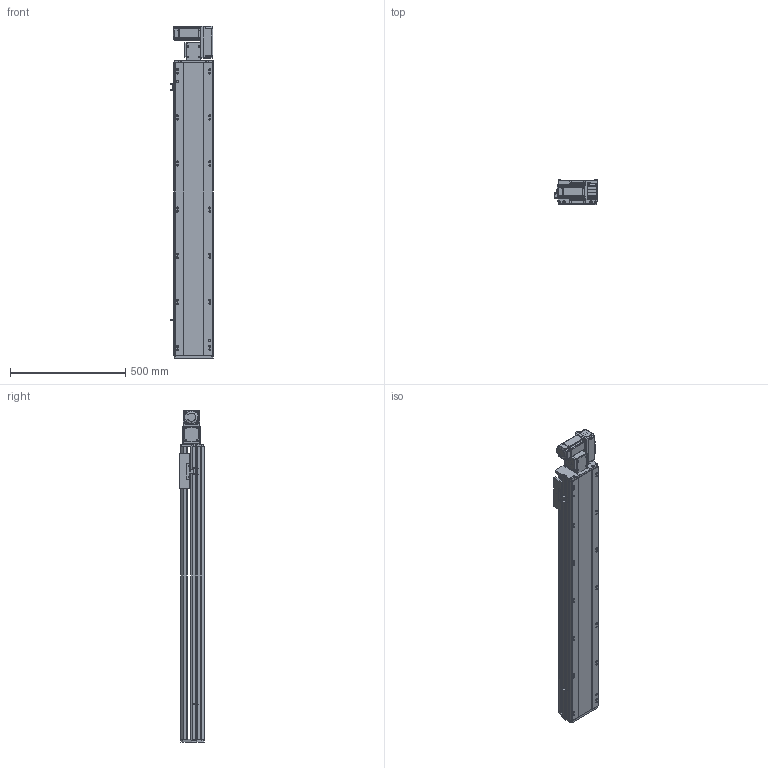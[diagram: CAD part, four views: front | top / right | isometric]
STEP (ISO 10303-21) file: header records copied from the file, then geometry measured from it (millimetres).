
FILE_DESCRIPTION (( 'STEP AP214' ), '1' );
FILE_NAME ('RTB17S-XX-1000-R-M40-C4.STEP', '2025-12-11T07:37:47', ( '' ), ( '' ), 'SwSTEP 2.0', 'SolidWorks 2018', '' );
FILE_SCHEMA (( 'AUTOMOTIVE_DESIGN' ));
Length unit declared in the file: millimetre
Products named in the file (14): RTB14-L-005P--轴承塑胶压盖^RTB17S-R-皮带座装配-400W_RTB17S-XX-XX-R-M40-C4; RTB17S-XX-1000-R-M40-C4; OMRON EE-SX672 传感器^RTB17S-XX-XX-R-M40-C4; RTB17-R-011菁釱^RTB17S-XX-XX-R-M40-C4; 400W侜督萇儂^RTB17S-XX-XX-R-M40-C4; RTB17S-R-々湍釱蚾饜-400W^RTB17S-XX-XX-R-M40-C4; RTB14-L-008-M20--萇儂啣^RTB17S-R-々湍釱蚾饜-400W_RTB17S-XX-XX-R-M40-C4; RTB14-L-018P^RTB17S-R-々湍釱蚾饜-400W_RTB17S-XX-XX-R-M40-C4; RTB17S-L-004佪裝蹟譫蟀諉釱^RTB17S-XX-XX-R-M40-C4; RTB14-L-017P^RTB17S-R-々湍釱蚾饜-400W_RTB17S-XX-XX-R-M40-C4; RTB17S-L-007奻裔^RTB17S-XX-XX-R-M40-C4; RTB17S-L-001耜醱啣^RTB17S-XX-XX-R-M40-C4; RTB17S-L-014-T20--々湍釱^RTB17S-R-々湍釱蚾饜-400W_RTB17S-XX-XX-R-M40-C4; RTH13-BL-012覜茼え俋离^RTB17S-XX-XX-R-M40-C4
Assembly tree (16 placements, depth 3):
  RTB17S-XX-1000-R-M40-C4
    RTB17-R-011菁釱^RTB17S-XX-XX-R-M40-C4
    RTB17S-L-007奻裔^RTB17S-XX-XX-R-M40-C4
    OMRON EE-SX672 传感器^RTB17S-XX-XX-R-M40-C4  x3
    RTB17S-L-001耜醱啣^RTB17S-XX-XX-R-M40-C4
    400W侜督萇儂^RTB17S-XX-XX-R-M40-C4
    RTB17S-L-004佪裝蹟譫蟀諉釱^RTB17S-XX-XX-R-M40-C4
    RTH13-BL-012覜茼え俋离^RTB17S-XX-XX-R-M40-C4
    RTB17S-R-々湍釱蚾饜-400W^RTB17S-XX-XX-R-M40-C4
      RTB17S-L-014-T20--々湍釱^RTB17S-R-々湍釱蚾饜-400W_RTB17S-XX-XX-R-M40-C4
      RTB14-L-005P--轴承塑胶压盖^RTB17S-R-皮带座装配-400W_RTB17S-XX-XX-R-M40-C4
      RTB14-L-008-M20--萇儂啣^RTB17S-R-々湍釱蚾饜-400W_RTB17S-XX-XX-R-M40-C4
      RTB14-L-017P^RTB17S-R-々湍釱蚾饜-400W_RTB17S-XX-XX-R-M40-C4  x2
      RTB14-L-018P^RTB17S-R-々湍釱蚾饜-400W_RTB17S-XX-XX-R-M40-C4
Bounding box: 183.5 x 108 x 1441 mm (x, y, z)
Volume: 12376987.7 mm3; surface area: 1497165.5 mm2
Topology: 15 solids, 15 shells, 2205 faces, 6087 edges, 3969 vertices
Faces by surface type: plane 1068, cylinder 689, bspline 301, cone 139, torus 8
Entity records: 62633 total; most frequent: CARTESIAN_POINT 17492, ORIENTED_EDGE 9018, DIRECTION 8396, EDGE_CURVE 4509, VERTEX_POINT 2957, AXIS2_PLACEMENT_3D 2887, VECTOR 2622, LINE 2622
